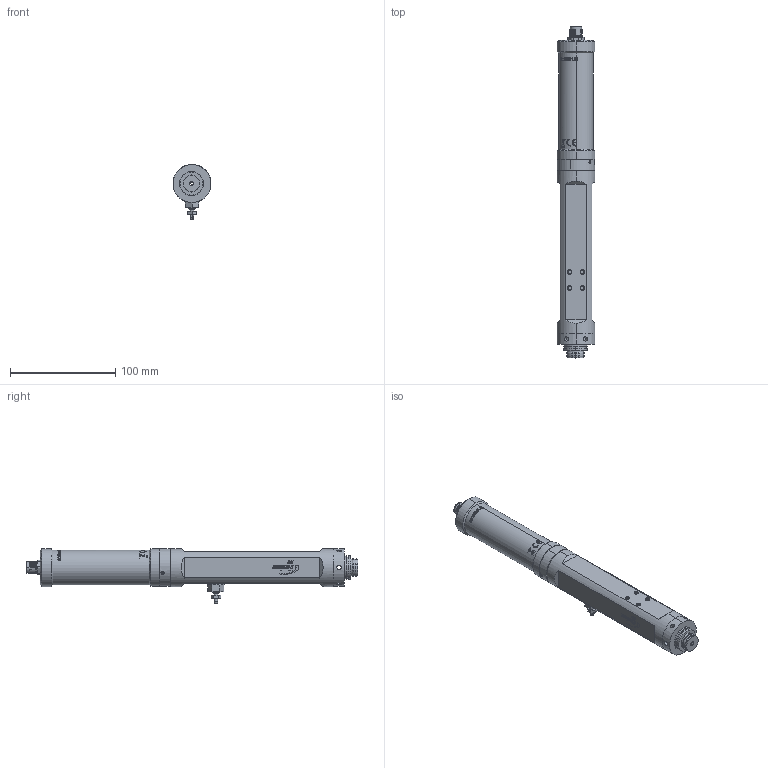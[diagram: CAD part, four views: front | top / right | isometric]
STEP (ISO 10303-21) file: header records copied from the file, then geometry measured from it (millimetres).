
FILE_DESCRIPTION (( 'STEP AP214' ), '1' );
FILE_NAME ('NORDSONEFD-7364205 PUMP, 2K, 797PCP, 0.15CC REV., FFKM.STEP', '2020-02-07T07:17:36', ( '' ), ( '' ), 'SwSTEP 2.0', 'SolidWorks 2019', '' );
FILE_SCHEMA (( 'AUTOMOTIVE_DESIGN' ));
Length unit declared in the file: inch
Products named in the file (1): NORDSONEFD-7364205  PUMP, 2K, 797PCP, 0.15CC REV., FFKM
Bounding box: 36 x 314.84 x 52.04 mm (x, y, z)
Surface area: 39426.9 mm2 (no closed solid volume)
Topology: 0 solids, 20 shells, 490 faces, 1928 edges, 1505 vertices
Faces by surface type: cylinder 269, plane 103, bspline 63, cone 27, sphere 16, torus 12
Entity records: 51124 total; most frequent: CARTESIAN_POINT 35225, ORIENTED_EDGE 3344, DIRECTION 2085, EDGE_CURVE 1896, VERTEX_POINT 1489, AXIS2_PLACEMENT_3D 747, EDGE_LOOP 611, LINE 591
